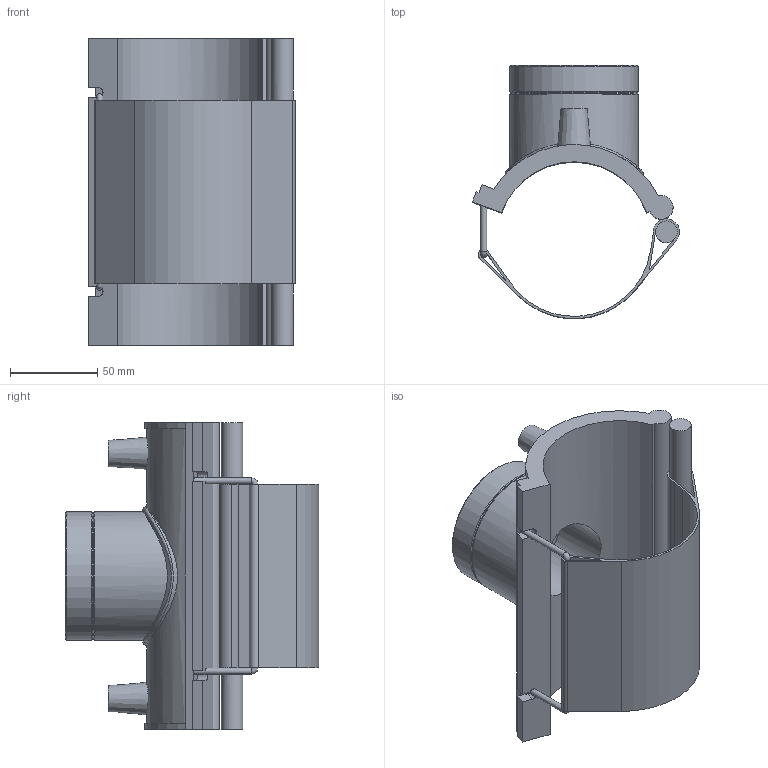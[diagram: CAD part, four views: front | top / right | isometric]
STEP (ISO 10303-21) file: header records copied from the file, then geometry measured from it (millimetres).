
FILE_DESCRIPTION(/* description */ ('PLASSON TRANSITION SADDLE 3''''IPS x 2"NPT'),/* implementation_level */ '2;1');
FILE_NAME(/* name */ 'C:\Dropbox\KIMPROJECTS-Inventor 2019\99-16-3568-Processing Inch\ASTM ElectroFusion 2021\5938B\5938B00303070.ipt.stp',/* time_stamp */ '2021-08-30T09:51:07+03:00',/* author */ ('KIM'),/* organization */ (''),/* preprocessor_version */ 'ST-DEVELOPER v17.2',/* originating_system */ 'Autodesk Inventor 2019',/* authorisation */ '');
FILE_SCHEMA (('AUTOMOTIVE_DESIGN { 1 0 10303 214 3 1 1 }'));
Length unit declared in the file: inch
Products named in the file (1): 5938B00303070
Bounding box: 118.87 x 145.57 x 176.02 mm (x, y, z)
Volume: 382540.8 mm3; surface area: 127409.3 mm2
Topology: 1 solids, 1 shells, 80 faces, 208 edges, 136 vertices
Faces by surface type: plane 42, cylinder 30, cone 5, torus 2, bspline 1
Full cylindrical faces by diameter (mm): 3.548 x2, 4 x2, 10 x2, 12.35 x1, 45.325 x1, 56.656 x1, 72.653 x1, 73.653 x2, 79.318 x1
Entity records: 2975 total; most frequent: CARTESIAN_POINT 896, DIRECTION 432, ORIENTED_EDGE 418, EDGE_CURVE 209, AXIS2_PLACEMENT_3D 158, VERTEX_POINT 136, LINE 116, VECTOR 116
